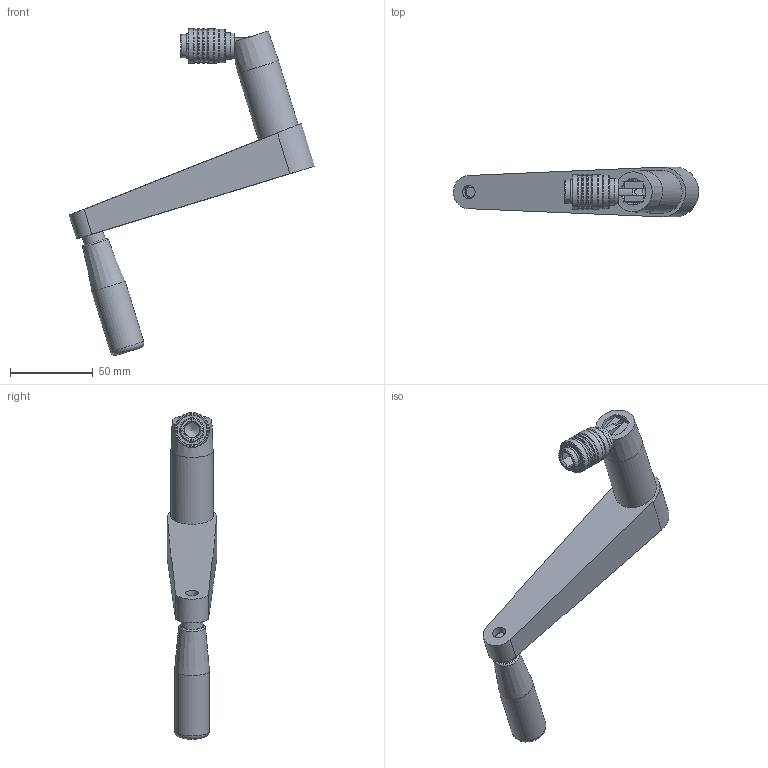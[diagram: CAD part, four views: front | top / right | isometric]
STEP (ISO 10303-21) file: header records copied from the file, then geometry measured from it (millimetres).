
FILE_DESCRIPTION(/* description */ ('Unknown'),/* implementation_level */ '2;1');
FILE_NAME(/* name */ '113.00105_00-Angewickelt',/* time_stamp */ '2024-07-02T15:33:00+02:00',/* author */ ('Unknown'),/* organization */ ('Unknown'),/* preprocessor_version */ 'ST-DEVELOPER v18.104',/* originating_system */ 'Solid Edge',/* authorisation */ 'Unknown');
FILE_SCHEMA (('AUTOMOTIVE_DESIGN {1 0 10303 214 3 1 1}'));
Length unit declared in the file: millimetre
Products named in the file (14): 113.00105; 125.00301; 126.00013; 125.00302; 127.00014; 142.00077; 142.00297; 142.00298; 125.00053; 127.00621; 142.00278; 128.00001; 142.00244; Kurbelgriff
Assembly tree (14 placements, depth 2):
  113.00105
    125.00301
    126.00013
    125.00302
    127.00014
    142.00077
    142.00297
    142.00298
    125.00053
    127.00621
    142.00278  x2
    128.00001
    142.00244
    Kurbelgriff
Bounding box: 147.77 x 29.98 x 196.93 mm (x, y, z)
Volume: 130789.1 mm3; surface area: 46317.5 mm2
Topology: 14 solids, 14 shells, 201 faces, 463 edges, 292 vertices
Faces by surface type: plane 91, cylinder 48, cone 25, torus 24, bspline 11, sphere 2
Full cylindrical faces by diameter (mm): 3.1 x2, 4 x2, 4.2 x1, 4.917 x2, 6 x1, 8 x2, 9 x1, 12.8 x1, 13 x1, 14 x3, 15 x2, 16 x1, 16.732 x1, 17 x1, 18 x1, 18.4 x1, 20 x1, 20.6 x1, 21 x5, 21.5 x1, 25.5 x1
Entity records: 8202 total; most frequent: CARTESIAN_POINT 3465, DIRECTION 886, ORIENTED_EDGE 718, AXIS2_PLACEMENT_3D 369, EDGE_CURVE 359, FACE_BOUND 300, EDGE_LOOP 297, VERTEX_POINT 265
